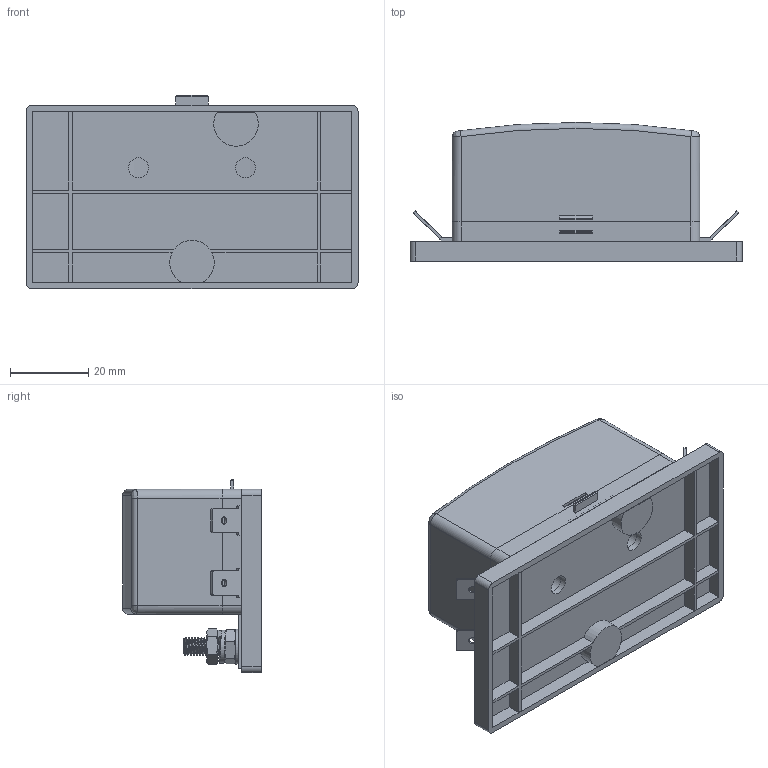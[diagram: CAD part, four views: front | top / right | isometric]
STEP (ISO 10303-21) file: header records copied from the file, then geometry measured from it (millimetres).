
FILE_DESCRIPTION(/* description */ (''),/* implementation_level */ '2;1');
FILE_NAME(/* name */ 'C:\Users\Hani\Desktop\work\BLR-304\BLR-304.stp',/* time_stamp */ '2021-07-25T17:22:16-07:00',/* author */ ('Hani'),/* organization */ (''),/* preprocessor_version */ 'ST-DEVELOPER v17',/* originating_system */ 'Autodesk Inventor 2019',/* authorisation */ '');
FILE_SCHEMA (('AUTOMOTIVE_DESIGN { 1 0 10303 214 3 1 1 }'));
Length unit declared in the file: inch
Products named in the file (11): BLC-106-G; BLR-304; BLOCK; plate2; STUD; WASHER; LOCK WASHER; HEX NUT; terminal; terminal_MIR1; BLR-304-Cover
Assembly tree (13 placements, depth 2):
  BLC-106-G
    BLR-304
    BLOCK
    plate2
    STUD
    WASHER
    LOCK WASHER
    HEX NUT  x2
    terminal  x2
    terminal_MIR1  x2
    BLR-304-Cover
Bounding box: 85.09 x 35.56 x 49.53 mm (x, y, z)
Volume: 45133.5 mm3; surface area: 37727.6 mm2
Topology: 13 solids, 13 shells, 562 faces, 1423 edges, 908 vertices
Faces by surface type: plane 334, cylinder 122, cone 64, torus 21, bspline 17, sphere 4
Full cylindrical faces by diameter (mm): 1.905 x4, 3.769 x16, 3.795 x2, 4.775 x1, 4.801 x17, 4.826 x6, 4.953 x1, 5.08 x2, 5.085 x2, 8.992 x1, 9.779 x2
Entity records: 19534 total; most frequent: CARTESIAN_POINT 7253, ORIENTED_EDGE 2520, DIRECTION 2405, EDGE_CURVE 1260, LINE 833, VECTOR 833, VERTEX_POINT 806, AXIS2_PLACEMENT_3D 786
